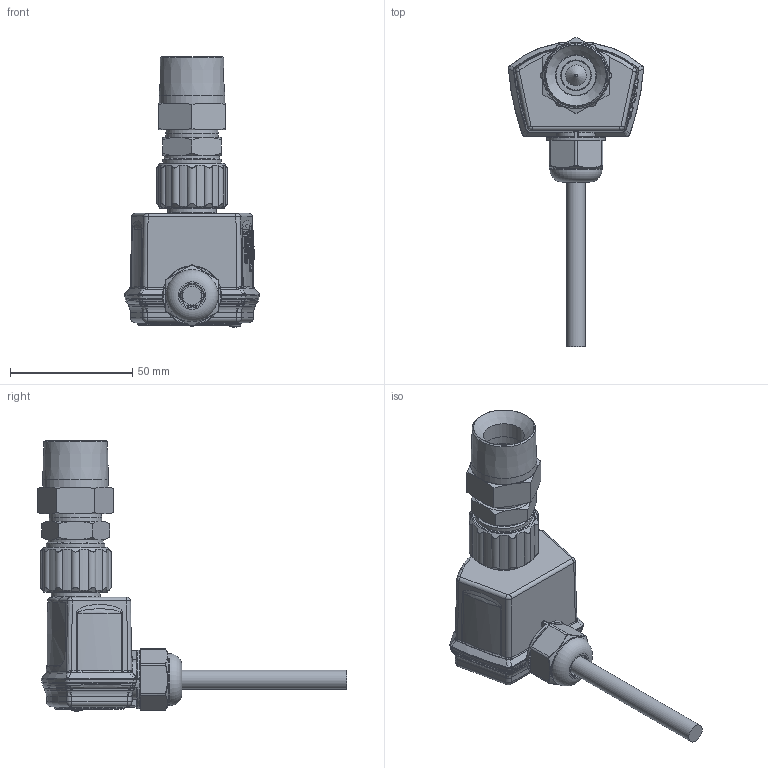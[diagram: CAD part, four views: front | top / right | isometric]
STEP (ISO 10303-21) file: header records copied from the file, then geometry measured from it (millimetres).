
FILE_DESCRIPTION(/* description */ (''),/* implementation_level */ '2;1');
FILE_NAME(/* name */ 'P:\ENC3\ENC3-3_4-NPT\ENC3-3_4-NPT.stp',/* time_stamp */ '2017-04-26T08:43:41+02:00',/* author */ ('neufeld'),/* organization */ (''),/* preprocessor_version */ 'ST-DEVELOPER v16.1',/* originating_system */ 'Autodesk Inventor 2016',/* authorisation */ '');
FILE_SCHEMA (('AUTOMOTIVE_DESIGN { 1 0 10303 214 3 1 1 }'));
Products named in the file (1): ENC3-3_4-NPT_AG-Kunde
Bounding box: 55.24 x 126.24 x 110.63 mm (x, y, z)
Volume: 3219.6 mm3; surface area: 41653.6 mm2
Topology: 2 solids, 3 shells, 2966 faces, 7788 edges, 4813 vertices
Faces by surface type: bspline 1313, plane 583, cylinder 504, torus 250, cone 250, sphere 66
Full cylindrical faces by diameter (mm): 1 x1, 3.25 x1, 5 x1, 7.65 x1, 9 x1, 12 x1, 12.25 x1, 16.7 x1, 17 x2, 18 x1, 18.7 x1, 19.4 x3, 20 x3, 21.25 x1, 21.34 x1, 22.5 x1, 23 x2, 24 x5, 26.8 x1
Entity records: 132674 total; most frequent: CARTESIAN_POINT 67618, ORIENTED_EDGE 15104, DIRECTION 10170, EDGE_CURVE 7551, VERTEX_POINT 4757, AXIS2_PLACEMENT_3D 3853, EDGE_LOOP 3166, FACE_OUTER_BOUND 2954
